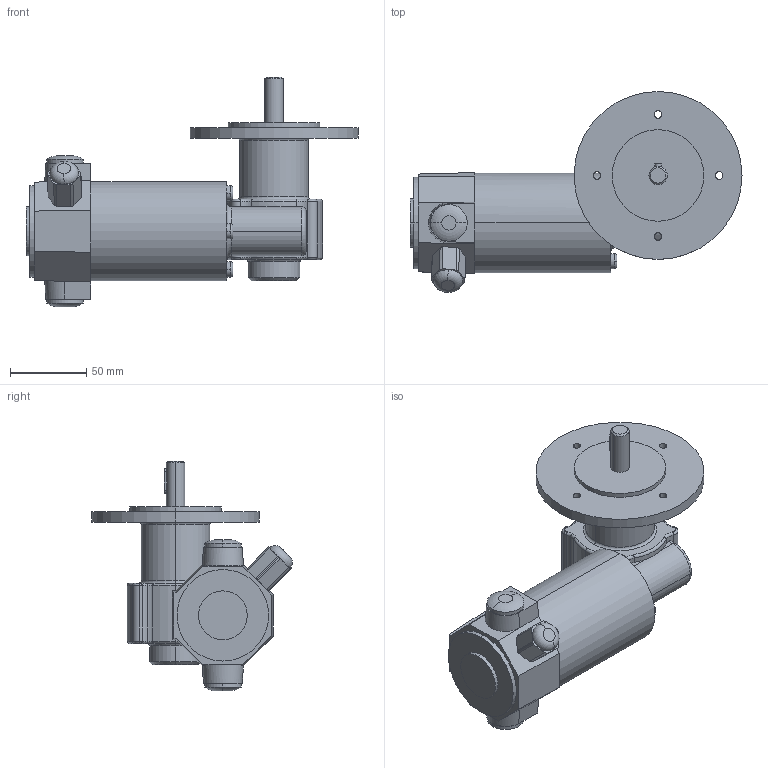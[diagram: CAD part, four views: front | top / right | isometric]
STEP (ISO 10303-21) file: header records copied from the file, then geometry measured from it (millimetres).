
FILE_DESCRIPTION(('OneSpaceDesigner STEP Export'),'2;1');
FILE_NAME('EPG02_GF125-10.stp','2008-07-02T13:29:13',(''),(''),'OneSpace Designer STEP processor (Jan. 2003) for AP214(CD)(Solid Model)','OneSpace Designer 12.01D 09-Jul-2004 (C) CoCreate Software GmbH','');
FILE_SCHEMA(('AUTOMOTIVE_DESIGN_CC2 {1 2 10303 214 -1 1 5 1}'));
Length unit declared in the file: millimetre
Products named in the file (2): EPG02_GF125-10
Assembly tree (1 placements, depth 2):
  EPG02_GF125-10
    EPG02_GF125-10
Bounding box: 217.5 x 131.58 x 150.5 mm (x, y, z)
Volume: 778845.7 mm3; surface area: 80262.8 mm2
Topology: 1 solids, 1 shells, 214 faces, 515 edges, 319 vertices
Faces by surface type: cylinder 85, torus 72, plane 51, cone 4, bspline 2
Entity records: 8138 total; most frequent: CARTESIAN_POINT 3538, ORIENTED_EDGE 1030, DIRECTION 861, EDGE_CURVE 515, AXIS2_PLACEMENT_3D 353, VERTEX_POINT 319, EDGE_LOOP 238, FACE_OUTER_BOUND 214
